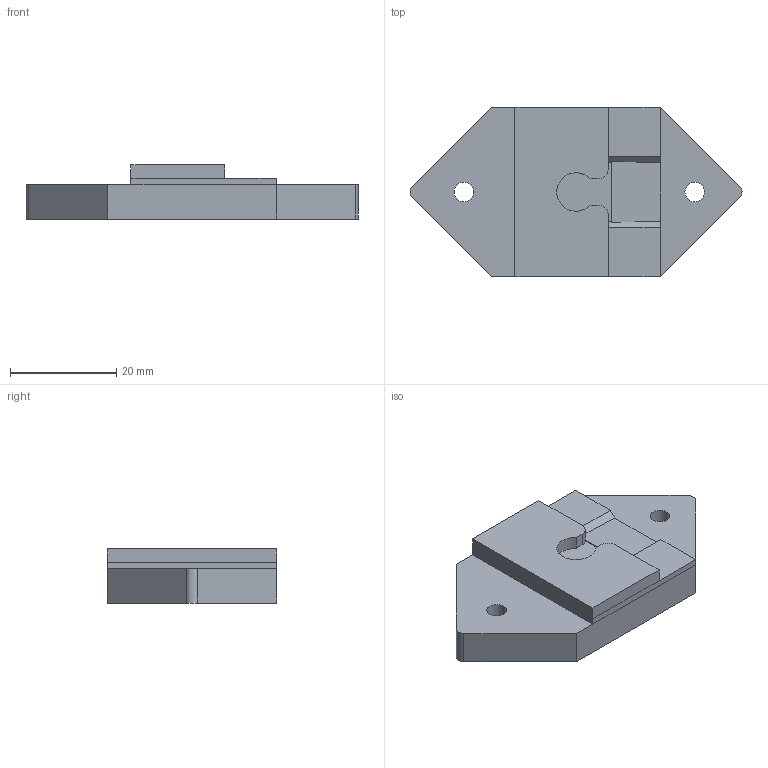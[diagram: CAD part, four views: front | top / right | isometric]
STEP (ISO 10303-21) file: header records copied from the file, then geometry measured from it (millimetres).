
FILE_DESCRIPTION(('FreeCAD Model'),'2;1');
FILE_NAME('Open CASCADE Shape Model','2025-09-24T01:58:23',(''),(''), 'Open CASCADE STEP processor 7.8','FreeCAD','Unknown');
FILE_SCHEMA(('AUTOMOTIVE_DESIGN { 1 0 10303 214 1 1 1 1 }'));
Length unit declared in the file: millimetre
Products named in the file (1): Retaining ramp
Bounding box: 62.57 x 32 x 10.2 mm (x, y, z)
Volume: 11809.6 mm3; surface area: 4796.6 mm2
Topology: 1 solids, 1 shells, 40 faces, 100 edges, 62 vertices
Faces by surface type: plane 32, cylinder 7, revolution 1
Full cylindrical faces by diameter (mm): 3.7 x2
Entity records: 1203 total; most frequent: CARTESIAN_POINT 204, ORIENTED_EDGE 200, DIRECTION 198, EDGE_CURVE 100, LINE 85, VECTOR 85, VERTEX_POINT 62, AXIS2_PLACEMENT_3D 56
